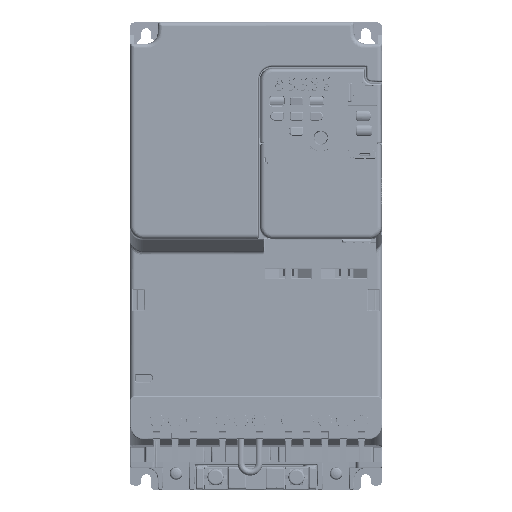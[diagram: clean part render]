
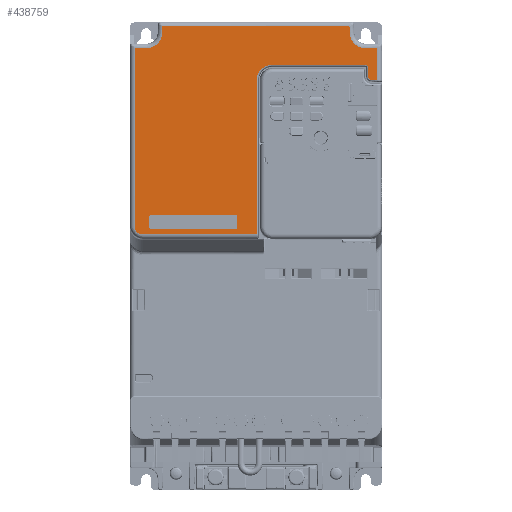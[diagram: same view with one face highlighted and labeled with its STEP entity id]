
A CAD part, top view. The second image highlights one B-rep face of the part: STEP entity #438759.
In plain terms, the highlighted planar face has unit normal (0, 0, 1).
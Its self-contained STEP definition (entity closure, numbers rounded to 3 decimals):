
#366120=DIRECTION('',(-0.999,0.052,0.));
#366121=VECTOR('',#366120,3.587);
#366122=CARTESIAN_POINT('',(67.5,97.748,
70.));
#366123=LINE('',#366122,#366121);
#366124=CARTESIAN_POINT('',(64.,99.5,70.));
#366125=DIRECTION('',(0.,0.,-1.));
#366126=DIRECTION('',(-0.052,-0.999,0.));
#366127=AXIS2_PLACEMENT_3D('',#366124,#366125,#366126);
#366129=CARTESIAN_POINT('',(62.433,104.184,
70.));
#366130=CARTESIAN_POINT('',(62.433,104.401,
70.));
#366131=CARTESIAN_POINT('',(62.366,104.811,
70.));
#366132=CARTESIAN_POINT('',(62.077,105.38,
70.));
#366133=CARTESIAN_POINT('',(61.63,105.827,
70.));
#366134=CARTESIAN_POINT('',(61.061,106.116,
70.));
#366135=CARTESIAN_POINT('',(60.651,106.183,
70.));
#366136=CARTESIAN_POINT('',(60.434,106.183,
70.));
#366138=CARTESIAN_POINT('',(9.,97.5,70.));
#366139=DIRECTION('',(0.,0.,1.));
#366140=DIRECTION('',(0.,1.,0.));
#366141=AXIS2_PLACEMENT_3D('',#366138,#366139,#366140);
#366143=CARTESIAN_POINT('',(-62.997,16.394,
70.));
#366144=DIRECTION('',(0.,0.,
-1.));
#366145=DIRECTION('',(-0.001,-1.,0.));
#366146=AXIS2_PLACEMENT_3D('',#366143,#366144,#366145);
#366148=CARTESIAN_POINT('',(-60.694,124.,70.));
#366149=DIRECTION('',(0.,0.,1.));
#366150=DIRECTION('',(0.,-1.,0.));
#366151=AXIS2_PLACEMENT_3D('',#366148,#366149,#366150);
#366153=DIRECTION('',(0.052,0.999,0.));
#366154=VECTOR('',#366153,3.95);
#366155=CARTESIAN_POINT('',(-52.205,123.555,70.));
#366156=LINE('',#366155,#366154);
#366157=DIRECTION('',(0.052,-0.999,0.));
#366158=VECTOR('',#366157,3.95);
#366159=CARTESIAN_POINT('',(51.999,127.5,70.));
#366160=LINE('',#366159,#366158);
#366161=CARTESIAN_POINT('',(60.694,124.,70.));
#366162=DIRECTION('',(0.,0.,1.));
#366163=DIRECTION('',(-0.999,-0.052,0.));
#366164=AXIS2_PLACEMENT_3D('',#366161,#366162,#366163);
#366166=DIRECTION('',(0.,1.,0.));
#366167=VECTOR('',#366166,17.752);
#366168=CARTESIAN_POINT('',(67.5,97.748,
70.));
#366169=LINE('',#366168,#366167);
#366196=DIRECTION('',(-1.,0.,0.));
#366197=VECTOR('',#366196,6.806);
#366198=CARTESIAN_POINT('',(67.5,115.5,70.));
#366199=LINE('',#366198,#366197);
#373075=CARTESIAN_POINT('',(-67.5,115.5,70.));
#373077=DIRECTION('',(0.,-1.,0.));
#373078=VECTOR('',#373077,99.101);
#373079=CARTESIAN_POINT('',(-67.5,115.5,70.));
#373080=LINE('',#373079,#373078);
#375798=DIRECTION('',(0.,-1.,0.));
#375799=VECTOR('',#375798,4.684);
#375800=CARTESIAN_POINT('',(62.433,104.184,
70.));
#375801=LINE('',#375800,#375799);
#375853=DIRECTION('',(1.,0.,0.));
#375854=VECTOR('',#375853,51.434);
#375855=CARTESIAN_POINT('',(9.,106.183,70.));
#375856=LINE('',#375855,#375854);
#375857=DIRECTION('',(0.,1.,0.));
#375858=VECTOR('',#375857,85.608);
#375859=CARTESIAN_POINT('',(0.317,11.892,
70.));
#375860=LINE('',#375859,#375858);
#380754=DIRECTION('',(-1.,0.,0.));
#380755=VECTOR('',#380754,6.806);
#380756=CARTESIAN_POINT('',(-60.694,115.5,70.));
#380757=LINE('',#380756,#380755);
#385511=DIRECTION('',(-1.,0.,0.));
#385512=VECTOR('',#385511,103.997);
#385513=CARTESIAN_POINT('',(51.999,127.5,70.));
#385514=LINE('',#385513,#385512);
#387562=DIRECTION('',(1.,0.,0.));
#387563=VECTOR('',#387562,63.318);
#387564=CARTESIAN_POINT('',(-63.001,11.892,
70.));
#387565=LINE('',#387564,#387563);
#430377=CARTESIAN_POINT('',(-67.5,16.398,70.));
#430378=VERTEX_POINT('',#430377);
#430379=CARTESIAN_POINT('',(-63.003,11.891,
70.));
#430380=VERTEX_POINT('',#430379);
#430381=VERTEX_POINT('',#373075);
#433058=CARTESIAN_POINT('',(52.205,123.555,70.));
#433059=CARTESIAN_POINT('',(60.694,115.5,70.));
#433060=VERTEX_POINT('',#433058);
#433061=VERTEX_POINT('',#433059);
#433062=CARTESIAN_POINT('',(67.5,97.748,
70.));
#433063=CARTESIAN_POINT('',(67.5,115.5,70.));
#433064=VERTEX_POINT('',#433062);
#433065=VERTEX_POINT('',#433063);
#433066=CARTESIAN_POINT('',(63.918,97.936,70.));
#433067=VERTEX_POINT('',#433066);
#433068=CARTESIAN_POINT('',(62.433,99.5,70.));
#433069=VERTEX_POINT('',#433068);
#433070=CARTESIAN_POINT('',(62.433,104.184,
70.));
#433071=VERTEX_POINT('',#433070);
#433072=VERTEX_POINT('',#366136);
#433073=CARTESIAN_POINT('',(9.,106.183,70.));
#433074=VERTEX_POINT('',#433073);
#433075=CARTESIAN_POINT('',(0.317,97.5,70.));
#433076=VERTEX_POINT('',#433075);
#433077=CARTESIAN_POINT('',(0.317,11.892,
70.));
#433078=VERTEX_POINT('',#433077);
#433079=CARTESIAN_POINT('',(-60.694,115.5,70.));
#433080=VERTEX_POINT('',#433079);
#433081=CARTESIAN_POINT('',(-52.205,123.555,70.));
#433082=VERTEX_POINT('',#433081);
#433083=CARTESIAN_POINT('',(-51.999,127.5,70.));
#433084=VERTEX_POINT('',#433083);
#433085=CARTESIAN_POINT('',(51.999,127.5,70.));
#433086=VERTEX_POINT('',#433085);
#438717=CARTESIAN_POINT('',(0.,0.,70.));
#438718=DIRECTION('',(0.,0.,1.));
#438719=DIRECTION('',(1.,0.,0.));
#438720=AXIS2_PLACEMENT_3D('',#438717,#438718,#438719);
#438721=PLANE('',#438720);
#438723=ORIENTED_EDGE('',*,*,#438722,.F.);
#438725=ORIENTED_EDGE('',*,*,#438724,.T.);
#438727=ORIENTED_EDGE('',*,*,#438726,.T.);
#438729=ORIENTED_EDGE('',*,*,#438728,.F.);
#438731=ORIENTED_EDGE('',*,*,#438730,.T.);
#438733=ORIENTED_EDGE('',*,*,#438732,.F.);
#438735=ORIENTED_EDGE('',*,*,#438734,.T.);
#438737=ORIENTED_EDGE('',*,*,#438736,.F.);
#438739=ORIENTED_EDGE('',*,*,#438738,.F.);
#438741=ORIENTED_EDGE('',*,*,#438740,.T.);
#438743=ORIENTED_EDGE('',*,*,#438742,.F.);
#438745=ORIENTED_EDGE('',*,*,#438744,.F.);
#438747=ORIENTED_EDGE('',*,*,#438746,.T.);
#438749=ORIENTED_EDGE('',*,*,#438748,.T.);
#438751=ORIENTED_EDGE('',*,*,#438750,.F.);
#438753=ORIENTED_EDGE('',*,*,#438752,.T.);
#438754=ORIENTED_EDGE('',*,*,#438707,.T.);
#438756=ORIENTED_EDGE('',*,*,#438755,.F.);
#438757=EDGE_LOOP('',(#438723,#438725,#438727,#438729,#438731,#438733,#438735,
#438737,#438739,#438741,#438743,#438745,#438747,#438749,#438751,#438753,#438754,
#438756));
#438758=FACE_OUTER_BOUND('',#438757,.F.);
#438759=ADVANCED_FACE('',(#438758),#438721,.T.);
#366128=CIRCLE('',#366127,1.567);
#366137=B_SPLINE_CURVE_WITH_KNOTS('',3,(#366129,#366130,#366131,#366132,#366133,
#366134,#366135,#366136),.UNSPECIFIED.,.F.,.F.,(4,1,1,1,1,4),(0.,0.2,0.4,
0.6,0.8,1.),.UNSPECIFIED.);
#366142=CIRCLE('',#366141,8.683);
#366147=CIRCLE('',#366146,4.503);
#366152=CIRCLE('',#366151,8.5);
#366165=CIRCLE('',#366164,8.5);
#438707=EDGE_CURVE('',#433060,#433061,#366165,.T.);
#438722=EDGE_CURVE('',#433064,#433065,#366169,.T.);
#438724=EDGE_CURVE('',#433064,#433067,#366123,.T.);
#438726=EDGE_CURVE('',#433067,#433069,#366128,.T.);
#438728=EDGE_CURVE('',#433071,#433069,#375801,.T.);
#438730=EDGE_CURVE('',#433071,#433072,#366137,.T.);
#438732=EDGE_CURVE('',#433074,#433072,#375856,.T.);
#438734=EDGE_CURVE('',#433074,#433076,#366142,.T.);
#438736=EDGE_CURVE('',#433078,#433076,#375860,.T.);
#438738=EDGE_CURVE('',#430380,#433078,#387565,.T.);
#438740=EDGE_CURVE('',#430380,#430378,#366147,.T.);
#438742=EDGE_CURVE('',#430381,#430378,#373080,.T.);
#438744=EDGE_CURVE('',#433080,#430381,#380757,.T.);
#438746=EDGE_CURVE('',#433080,#433082,#366152,.T.);
#438748=EDGE_CURVE('',#433082,#433084,#366156,.T.);
#438750=EDGE_CURVE('',#433086,#433084,#385514,.T.);
#438752=EDGE_CURVE('',#433086,#433060,#366160,.T.);
#438755=EDGE_CURVE('',#433065,#433061,#366199,.T.);
